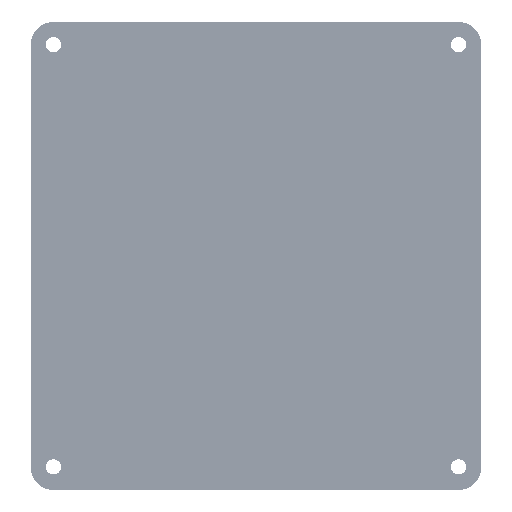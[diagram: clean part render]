
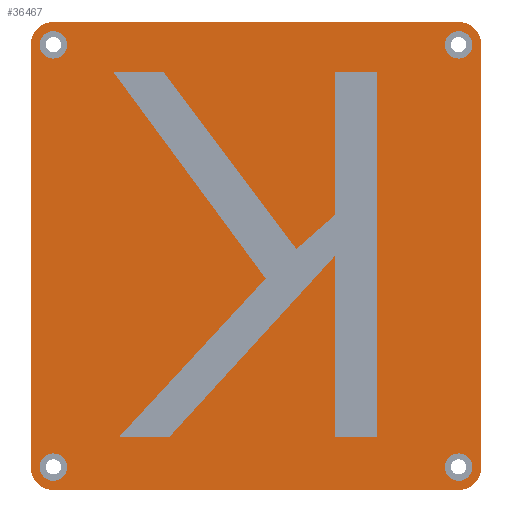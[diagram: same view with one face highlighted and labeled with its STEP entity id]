
A CAD part, front view. The second image highlights one B-rep face of the part: STEP entity #36467.
In plain terms, the highlighted planar face has unit normal (0, -1, 0).
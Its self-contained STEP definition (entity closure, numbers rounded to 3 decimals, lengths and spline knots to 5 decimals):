
#1222=LINE('',#55387,#5078);
#1226=LINE('',#55396,#5082);
#1230=LINE('',#55405,#5086);
#1233=LINE('',#55411,#5089);
#1236=LINE('',#55417,#5092);
#1239=LINE('',#55423,#5095);
#1241=LINE('',#55426,#5097);
#1244=LINE('',#55432,#5100);
#1246=LINE('',#55435,#5102);
#1249=LINE('',#55441,#5105);
#1252=LINE('',#55447,#5108);
#1254=LINE('',#55450,#5110);
#1308=LINE('',#55558,#5164);
#1310=LINE('',#55562,#5166);
#1314=LINE('',#55571,#5170);
#1318=LINE('',#55580,#5174);
#5078=VECTOR('',#45174,1.);
#5082=VECTOR('',#45180,1.);
#5086=VECTOR('',#45186,1.);
#5089=VECTOR('',#45191,1.);
#5092=VECTOR('',#45196,1.);
#5095=VECTOR('',#45201,1.);
#5097=VECTOR('',#45205,1.);
#5100=VECTOR('',#45210,1.);
#5102=VECTOR('',#45214,1.);
#5105=VECTOR('',#45219,1.);
#5108=VECTOR('',#45224,1.);
#5110=VECTOR('',#45228,1.);
#5164=VECTOR('',#45308,1.);
#5166=VECTOR('',#45312,1.);
#5170=VECTOR('',#45318,1.);
#5174=VECTOR('',#45324,1.);
#9588=PLANE('',#41804);
#11369=ORIENTED_EDGE('',*,*,#21552,.F.);
#11370=ORIENTED_EDGE('',*,*,#21586,.T.);
#11371=ORIENTED_EDGE('',*,*,#21562,.F.);
#11372=ORIENTED_EDGE('',*,*,#21587,.T.);
#11373=ORIENTED_EDGE('',*,*,#21558,.T.);
#11374=ORIENTED_EDGE('',*,*,#21588,.T.);
#11375=ORIENTED_EDGE('',*,*,#21554,.F.);
#11376=ORIENTED_EDGE('',*,*,#21589,.T.);
#11377=ORIENTED_EDGE('',*,*,#21579,.F.);
#11378=ORIENTED_EDGE('',*,*,#21577,.T.);
#11379=ORIENTED_EDGE('',*,*,#21575,.F.);
#11380=ORIENTED_EDGE('',*,*,#21581,.T.);
#11381=ORIENTED_EDGE('',*,*,#21466,.T.);
#11382=ORIENTED_EDGE('',*,*,#21498,.T.);
#11383=ORIENTED_EDGE('',*,*,#21496,.T.);
#11384=ORIENTED_EDGE('',*,*,#21493,.T.);
#11385=ORIENTED_EDGE('',*,*,#21480,.T.);
#11386=ORIENTED_EDGE('',*,*,#21477,.T.);
#11387=ORIENTED_EDGE('',*,*,#21474,.T.);
#11388=ORIENTED_EDGE('',*,*,#21490,.T.);
#11389=ORIENTED_EDGE('',*,*,#21488,.T.);
#11390=ORIENTED_EDGE('',*,*,#21470,.T.);
#11391=ORIENTED_EDGE('',*,*,#21485,.T.);
#11392=ORIENTED_EDGE('',*,*,#21483,.T.);
#21466=EDGE_CURVE('',#26633,#26635,#1222,.T.);
#21470=EDGE_CURVE('',#26637,#26639,#1226,.T.);
#21474=EDGE_CURVE('',#26641,#26643,#1230,.T.);
#21477=EDGE_CURVE('',#26645,#26641,#1233,.T.);
#21480=EDGE_CURVE('',#26647,#26645,#1236,.T.);
#21483=EDGE_CURVE('',#26649,#26633,#1239,.T.);
#21485=EDGE_CURVE('',#26639,#26649,#1241,.T.);
#21488=EDGE_CURVE('',#26651,#26637,#1244,.T.);
#21490=EDGE_CURVE('',#26643,#26651,#1246,.T.);
#21493=EDGE_CURVE('',#26653,#26647,#1249,.T.);
#21496=EDGE_CURVE('',#26655,#26653,#1252,.T.);
#21498=EDGE_CURVE('',#26635,#26655,#1254,.T.);
#21552=EDGE_CURVE('',#26696,#26697,#1308,.T.);
#21554=EDGE_CURVE('',#26698,#26699,#1310,.T.);
#21558=EDGE_CURVE('',#26702,#26703,#1314,.T.);
#21562=EDGE_CURVE('',#26706,#26707,#1318,.T.);
#21575=EDGE_CURVE('',#26715,#26715,#30002,.T.);
#21577=EDGE_CURVE('',#26717,#26717,#30004,.T.);
#21579=EDGE_CURVE('',#26719,#26719,#30006,.T.);
#21581=EDGE_CURVE('',#26721,#26721,#30008,.T.);
#21586=EDGE_CURVE('',#26696,#26707,#30013,.F.);
#21587=EDGE_CURVE('',#26706,#26702,#30014,.F.);
#21588=EDGE_CURVE('',#26703,#26699,#30015,.F.);
#21589=EDGE_CURVE('',#26698,#26697,#30016,.F.);
#26633=VERTEX_POINT('',#55382);
#26635=VERTEX_POINT('',#55386);
#26637=VERTEX_POINT('',#55391);
#26639=VERTEX_POINT('',#55395);
#26641=VERTEX_POINT('',#55400);
#26643=VERTEX_POINT('',#55404);
#26645=VERTEX_POINT('',#55409);
#26647=VERTEX_POINT('',#55415);
#26649=VERTEX_POINT('',#55421);
#26651=VERTEX_POINT('',#55430);
#26653=VERTEX_POINT('',#55439);
#26655=VERTEX_POINT('',#55445);
#26696=VERTEX_POINT('',#55557);
#26697=VERTEX_POINT('',#55559);
#26698=VERTEX_POINT('',#55563);
#26699=VERTEX_POINT('',#55564);
#26702=VERTEX_POINT('',#55572);
#26703=VERTEX_POINT('',#55573);
#26706=VERTEX_POINT('',#55581);
#26707=VERTEX_POINT('',#55582);
#26715=VERTEX_POINT('',#55605);
#26717=VERTEX_POINT('',#55610);
#26719=VERTEX_POINT('',#55615);
#26721=VERTEX_POINT('',#55620);
#30002=CIRCLE('',#41789,0.003);
#30004=CIRCLE('',#41792,0.003);
#30006=CIRCLE('',#41795,0.003);
#30008=CIRCLE('',#41798,0.003);
#30013=CIRCLE('',#41805,0.005);
#30014=CIRCLE('',#41806,0.005);
#30015=CIRCLE('',#41807,0.005);
#30016=CIRCLE('',#41808,0.005);
#31072=EDGE_LOOP('',(#11369,#11370,#11371,#11372,#11373,#11374,#11375,#11376));
#31073=EDGE_LOOP('',(#11377));
#31074=EDGE_LOOP('',(#11378));
#31075=EDGE_LOOP('',(#11379));
#31076=EDGE_LOOP('',(#11380));
#31077=EDGE_LOOP('',(#11381,#11382,#11383,#11384,#11385,#11386,#11387,#11388,
#11389,#11390,#11391,#11392));
#33538=FACE_BOUND('',#31072,.T.);
#33539=FACE_BOUND('',#31073,.T.);
#33540=FACE_BOUND('',#31074,.T.);
#33541=FACE_BOUND('',#31075,.T.);
#33542=FACE_BOUND('',#31076,.T.);
#33543=FACE_BOUND('',#31077,.T.);
#36467=ADVANCED_FACE('',(#33538,#33539,#33540,#33541,#33542,#33543),#9588,
 .F.);
#41789=AXIS2_PLACEMENT_3D('',#55604,#45342,#45343);
#41792=AXIS2_PLACEMENT_3D('',#55609,#45348,#45349);
#41795=AXIS2_PLACEMENT_3D('',#55614,#45354,#45355);
#41798=AXIS2_PLACEMENT_3D('',#55619,#45360,#45361);
#41804=AXIS2_PLACEMENT_3D('',#55626,#45372,#45373);
#41805=AXIS2_PLACEMENT_3D('',#55627,#45374,#45375);
#41806=AXIS2_PLACEMENT_3D('',#55628,#45376,#45377);
#41807=AXIS2_PLACEMENT_3D('',#55629,#45378,#45379);
#41808=AXIS2_PLACEMENT_3D('',#55630,#45380,#45381);
#45174=DIRECTION('',(1.,0.,0.));
#45180=DIRECTION('',(-1.,0.,0.));
#45186=DIRECTION('',(-1.,0.,0.));
#45191=DIRECTION('',(0.,0.,-1.));
#45196=DIRECTION('',(1.,0.,0.));
#45201=DIRECTION('',(-0.594,0.,0.805));
#45205=DIRECTION('',(0.679,0.,0.734));
#45210=DIRECTION('',(-0.675,0.,-0.738));
#45214=DIRECTION('',(0.,0.,1.));
#45219=DIRECTION('',(0.,0.,1.));
#45224=DIRECTION('',(0.748,0.,0.664));
#45228=DIRECTION('',(0.601,0.,-0.799));
#45308=DIRECTION('',(0.,0.,1.));
#45312=DIRECTION('',(1.,0.,0.));
#45318=DIRECTION('',(0.,0.,1.));
#45324=DIRECTION('',(-1.,0.,0.));
#45342=DIRECTION('',(0.,-1.,0.));
#45343=DIRECTION('',(1.,0.,0.));
#45348=DIRECTION('',(0.,1.,0.));
#45349=DIRECTION('',(1.,0.,0.));
#45354=DIRECTION('',(0.,-1.,0.));
#45355=DIRECTION('',(1.,0.,0.));
#45360=DIRECTION('',(0.,1.,0.));
#45361=DIRECTION('',(1.,0.,0.));
#45372=DIRECTION('',(0.,1.,0.));
#45373=DIRECTION('',(1.,0.,0.));
#45374=DIRECTION('',(0.,1.,0.));
#45375=DIRECTION('',(1.,0.,0.));
#45376=DIRECTION('',(0.,1.,0.));
#45377=DIRECTION('',(1.,0.,0.));
#45378=DIRECTION('',(0.,1.,0.));
#45379=DIRECTION('',(1.,0.,0.));
#45380=DIRECTION('',(0.,1.,0.));
#45381=DIRECTION('',(1.,0.,0.));
#55382=CARTESIAN_POINT('',(-0.03124,0.,0.0403));
#55386=CARTESIAN_POINT('',(-0.0203,0.,0.0403));
#55387=CARTESIAN_POINT('',(-0.02577,0.,0.0403));
#55391=CARTESIAN_POINT('',(-0.01904,0.,-0.03967));
#55395=CARTESIAN_POINT('',(-0.03004,0.,-0.03967));
#55396=CARTESIAN_POINT('',(-0.02454,0.,-0.03967));
#55400=CARTESIAN_POINT('',(0.02652,0.,-0.03967));
#55404=CARTESIAN_POINT('',(0.01722,0.,-0.03967));
#55405=CARTESIAN_POINT('',(0.02187,0.,-0.03967));
#55409=CARTESIAN_POINT('',(0.02652,0.,0.0403));
#55411=CARTESIAN_POINT('',(0.02652,0.,0.00031));
#55415=CARTESIAN_POINT('',(0.01722,0.,0.0403));
#55417=CARTESIAN_POINT('',(0.02187,0.,0.0403));
#55421=CARTESIAN_POINT('',(0.00212,0.,-0.00493));
#55423=CARTESIAN_POINT('',(-0.01456,0.,0.01769));
#55426=CARTESIAN_POINT('',(-0.01396,0.,-0.0223));
#55430=CARTESIAN_POINT('',(0.01722,0.,-0.00001));
#55432=CARTESIAN_POINT('',(-0.00091,0.,-0.01984));
#55435=CARTESIAN_POINT('',(0.01722,0.,-0.01984));
#55439=CARTESIAN_POINT('',(0.01722,0.,0.00895));
#55441=CARTESIAN_POINT('',(0.01722,0.,0.02463));
#55445=CARTESIAN_POINT('',(0.00884,0.,0.00151));
#55447=CARTESIAN_POINT('',(0.01303,0.,0.00523));
#55450=CARTESIAN_POINT('',(-0.00573,0.,0.02091));
#55557=CARTESIAN_POINT('',(-0.04929,0.,-0.04616));
#55558=CARTESIAN_POINT('',(-0.04929,0.,0.));
#55559=CARTESIAN_POINT('',(-0.04929,0.,0.04616));
#55562=CARTESIAN_POINT('',(0.,0.,0.05116));
#55563=CARTESIAN_POINT('',(-0.04429,0.,0.05116));
#55564=CARTESIAN_POINT('',(0.04429,0.,0.05116));
#55571=CARTESIAN_POINT('',(0.04929,0.,0.));
#55572=CARTESIAN_POINT('',(0.04929,0.,-0.04616));
#55573=CARTESIAN_POINT('',(0.04929,0.,0.04616));
#55580=CARTESIAN_POINT('',(0.03293,0.,-0.05116));
#55581=CARTESIAN_POINT('',(0.04429,0.,-0.05116));
#55582=CARTESIAN_POINT('',(-0.04429,0.,-0.05116));
#55604=CARTESIAN_POINT('',(-0.04429,0.,-0.04616));
#55605=CARTESIAN_POINT('',(-0.04129,0.,-0.04616));
#55609=CARTESIAN_POINT('',(0.04429,0.,-0.04616));
#55610=CARTESIAN_POINT('',(0.04729,0.,-0.04616));
#55614=CARTESIAN_POINT('',(0.04429,0.,0.04616));
#55615=CARTESIAN_POINT('',(0.04729,0.,0.04616));
#55619=CARTESIAN_POINT('',(-0.04429,0.,0.04616));
#55620=CARTESIAN_POINT('',(-0.04129,0.,0.04616));
#55626=CARTESIAN_POINT('',(0.,0.,0.00603));
#55627=CARTESIAN_POINT('',(-0.04429,0.,-0.04616));
#55628=CARTESIAN_POINT('',(0.04429,0.,-0.04616));
#55629=CARTESIAN_POINT('',(0.04429,0.,0.04616));
#55630=CARTESIAN_POINT('',(-0.04429,0.,0.04616));
